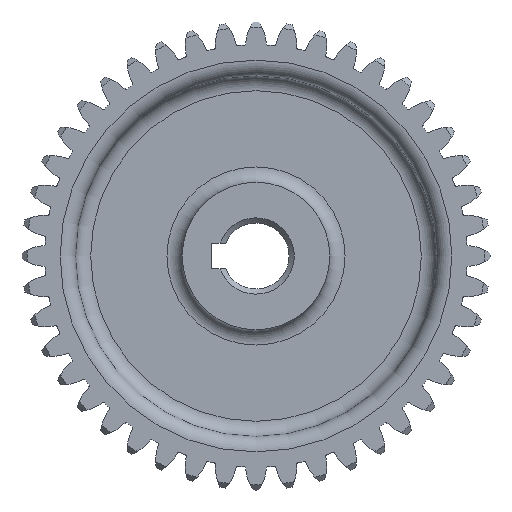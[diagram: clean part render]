
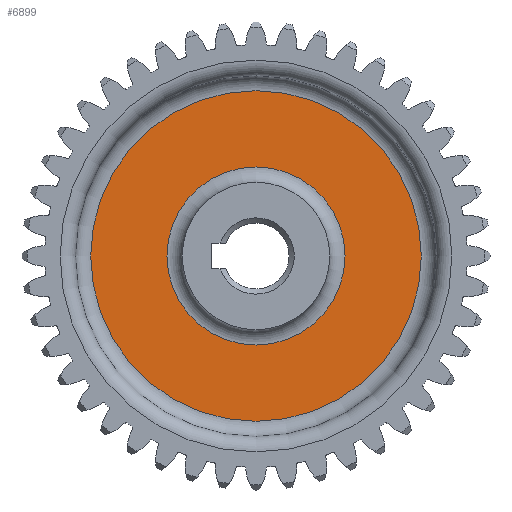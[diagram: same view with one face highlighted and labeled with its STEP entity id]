
A CAD part, left-side view. The second image highlights one B-rep face of the part: STEP entity #6899.
In plain terms, the highlighted planar face has unit normal (-1, 0, 0).
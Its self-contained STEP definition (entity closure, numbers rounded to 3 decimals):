
#558=FACE_BOUND('',#1943,.T.);
#1191=CIRCLE('',#7925,17.5);
#1192=CIRCLE('',#7927,32.5);
#1566=FACE_OUTER_BOUND('',#1942,.T.);
#1942=EDGE_LOOP('',(#6502));
#1943=EDGE_LOOP('',(#6503));
#3230=VERTEX_POINT('',#12954);
#3231=VERTEX_POINT('',#12958);
#4322=EDGE_CURVE('',#3230,#3230,#1191,.T.);
#4323=EDGE_CURVE('',#3231,#3231,#1192,.T.);
#6502=ORIENTED_EDGE('',*,*,#4323,.F.);
#6503=ORIENTED_EDGE('',*,*,#4322,.T.);
#6531=PLANE('',#7926);
#6899=ADVANCED_FACE('',(#1566,#558),#6531,.T.);
#7925=AXIS2_PLACEMENT_3D('',#12956,#10211,#10212);
#7926=AXIS2_PLACEMENT_3D('',#12957,#10213,#10214);
#7927=AXIS2_PLACEMENT_3D('',#12959,#10215,#10216);
#10211=DIRECTION('center_axis',(1.,0.,0.));
#10212=DIRECTION('ref_axis',(0.,0.,-1.));
#10213=DIRECTION('center_axis',(-1.,0.,0.));
#10214=DIRECTION('ref_axis',(0.,0.,1.));
#10215=DIRECTION('center_axis',(1.,0.,0.));
#10216=DIRECTION('ref_axis',(0.,0.,-1.));
#12954=CARTESIAN_POINT('',(-3.,0.,17.5));
#12956=CARTESIAN_POINT('Origin',(-3.,0.,
0.));
#12957=CARTESIAN_POINT('Origin',(-3.,32.5,0.));
#12958=CARTESIAN_POINT('',(-3.,0.,32.5));
#12959=CARTESIAN_POINT('Origin',(-3.,0.,
0.));
